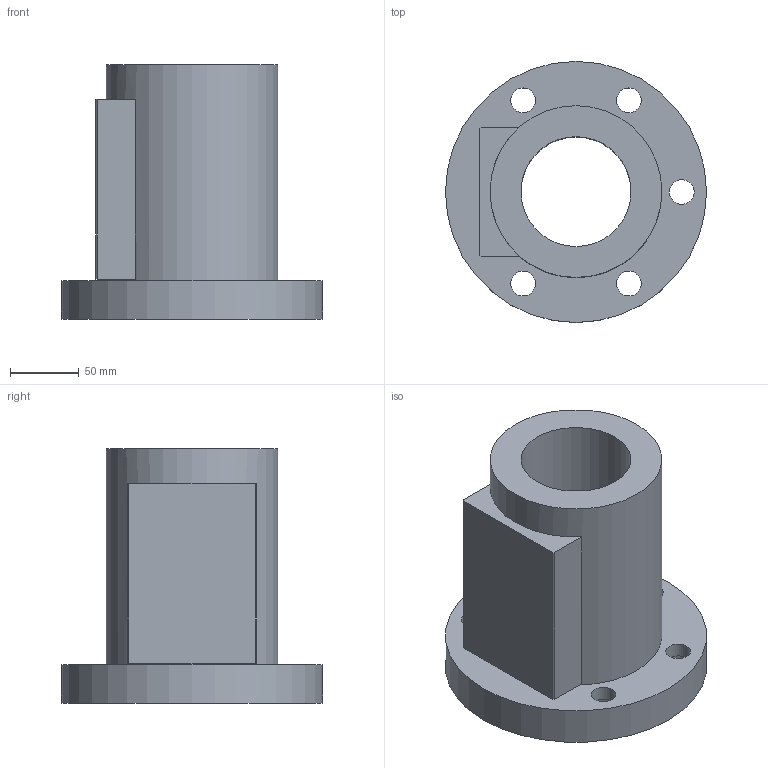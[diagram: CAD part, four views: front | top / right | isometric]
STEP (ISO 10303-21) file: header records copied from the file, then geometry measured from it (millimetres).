
FILE_DESCRIPTION(/* description */ (''),/* implementation_level */ '2;1');
FILE_NAME(/* name */ '80-20B2',/* time_stamp */ '2006-07-31T13:03:59+08:00',/* author */ (''),/* organization */ (''),/* preprocessor_version */ 'ST-DEVELOPER v9',/* originating_system */ 'UGS - NX 4.0',/* authorisation */ '');
FILE_SCHEMA (('CONFIG_CONTROL_DESIGN'));
Length unit declared in the file: millimetre
Products named in the file (1): 80-20B2
Bounding box: 190 x 190 x 185 mm (x, y, z)
Volume: 1903508.6 mm3; surface area: 187492.9 mm2
Topology: 1 solids, 1 shells, 28 faces, 61 edges, 42 vertices
Faces by surface type: plane 15, cylinder 13
Full cylindrical faces by diameter (mm): 18 x5, 26 x5, 80 x1, 125 x1, 190 x1
Entity records: 794 total; most frequent: DIRECTION 130, CARTESIAN_POINT 111, ORIENTED_EDGE 88, EDGE_LOOP 60, AXIS2_PLACEMENT_3D 57, FACE_BOUND 45, EDGE_CURVE 44, VERTEX_POINT 38
